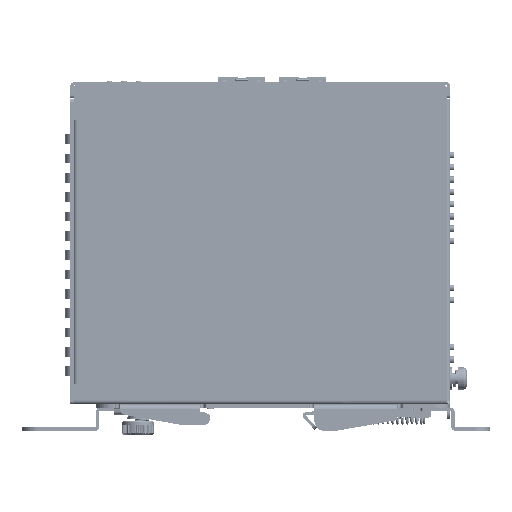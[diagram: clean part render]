
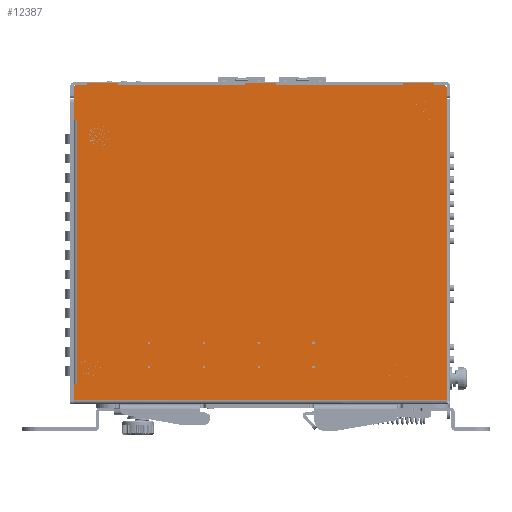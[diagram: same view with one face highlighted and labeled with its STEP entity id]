
A CAD part, left-side view. The second image highlights one B-rep face of the part: STEP entity #12387.
In plain terms, the highlighted planar face has unit normal (-1, 0, 0).
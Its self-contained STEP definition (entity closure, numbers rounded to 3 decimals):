
#88=DIRECTION('',(0.,-1.,0.));
#89=VECTOR('',#88,39.4);
#90=CARTESIAN_POINT('',(-1.,44.2,0.));
#91=LINE('',#90,#89);
#92=DIRECTION('',(0.,0.,-1.));
#93=VECTOR('',#92,0.8);
#94=CARTESIAN_POINT('',(-1.,4.8,0.8));
#95=LINE('',#94,#93);
#96=DIRECTION('',(0.,1.,0.));
#97=VECTOR('',#96,9.6);
#98=CARTESIAN_POINT('',(-1.,-4.8,0.8));
#99=LINE('',#98,#97);
#100=DIRECTION('',(0.,0.,1.));
#101=VECTOR('',#100,0.8);
#102=CARTESIAN_POINT('',(-1.,-4.8,0.));
#103=LINE('',#102,#101);
#104=DIRECTION('',(0.,-1.,0.));
#105=VECTOR('',#104,39.4);
#106=CARTESIAN_POINT('',(-1.,-4.8,0.));
#107=LINE('',#106,#105);
#108=DIRECTION('',(0.,0.,-1.));
#109=VECTOR('',#108,0.8);
#110=CARTESIAN_POINT('',(-1.,-44.2,0.8));
#111=LINE('',#110,#109);
#112=DIRECTION('',(0.,1.,0.));
#113=VECTOR('',#112,9.6);
#114=CARTESIAN_POINT('',(-1.,-53.8,0.8));
#115=LINE('',#114,#113);
#116=DIRECTION('',(0.,0.,1.));
#117=VECTOR('',#116,0.8);
#118=CARTESIAN_POINT('',(-1.,-53.8,0.));
#119=LINE('',#118,#117);
#120=DIRECTION('',(0.,-1.,0.));
#121=VECTOR('',#120,3.5);
#122=CARTESIAN_POINT('',(-1.,-53.8,0.));
#123=LINE('',#122,#121);
#124=CARTESIAN_POINT('',(-1.,-57.3,-0.5));
#125=DIRECTION('',(-1.,0.,0.));
#126=DIRECTION('',(0.,-1.,0.));
#127=AXIS2_PLACEMENT_3D('',#124,#125,#126);
#129=DIRECTION('',(0.,0.,-1.));
#130=VECTOR('',#129,3.7);
#131=CARTESIAN_POINT('',(-1.,-57.8,-0.5));
#132=LINE('',#131,#130);
#133=DIRECTION('',(0.,1.,0.));
#134=VECTOR('',#133,1.2);
#135=CARTESIAN_POINT('',(-1.,56.8,-92.8));
#136=LINE('',#135,#134);
#137=DIRECTION('',(0.,1.,0.));
#138=VECTOR('',#137,1.);
#139=CARTESIAN_POINT('',(-1.,56.8,-10.7));
#140=LINE('',#139,#138);
#141=DIRECTION('',(0.,0.,1.));
#142=VECTOR('',#141,6.5);
#143=CARTESIAN_POINT('',(-1.,57.8,-10.7));
#144=LINE('',#143,#142);
#145=DIRECTION('',(0.,0.,-1.));
#146=VECTOR('',#145,3.7);
#147=CARTESIAN_POINT('',(-1.,57.8,-0.5));
#148=LINE('',#147,#146);
#149=CARTESIAN_POINT('',(-1.,57.3,-0.5));
#150=DIRECTION('',(-1.,0.,0.));
#151=DIRECTION('',(0.,0.,1.));
#152=AXIS2_PLACEMENT_3D('',#149,#150,#151);
#154=DIRECTION('',(0.,-1.,0.));
#155=VECTOR('',#154,3.5);
#156=CARTESIAN_POINT('',(-1.,57.3,0.));
#157=LINE('',#156,#155);
#158=DIRECTION('',(0.,0.,-1.));
#159=VECTOR('',#158,0.8);
#160=CARTESIAN_POINT('',(-1.,53.8,0.8));
#161=LINE('',#160,#159);
#162=DIRECTION('',(0.,1.,0.));
#163=VECTOR('',#162,9.6);
#164=CARTESIAN_POINT('',(-1.,44.2,0.8));
#165=LINE('',#164,#163);
#166=DIRECTION('',(0.,0.,1.));
#167=VECTOR('',#166,0.8);
#168=CARTESIAN_POINT('',(-1.,44.2,0.));
#169=LINE('',#168,#167);
#219=DIRECTION('',(0.,0.,1.));
#220=VECTOR('',#219,82.1);
#221=CARTESIAN_POINT('',(-1.,56.8,-92.8));
#222=LINE('',#221,#220);
#464=DIRECTION('',(0.,0.,-1.));
#465=VECTOR('',#464,5.);
#466=CARTESIAN_POINT('',(-1.,58.,-92.8));
#467=LINE('',#466,#465);
#502=DIRECTION('',(0.,1.,0.));
#503=VECTOR('',#502,115.8);
#504=CARTESIAN_POINT('',(-1.,-57.8,-97.8));
#505=LINE('',#504,#503);
#6283=DIRECTION('',(0.,0.,-1.));
#6284=VECTOR('',#6283,93.6);
#6285=CARTESIAN_POINT('',(-1.,-57.8,-4.2));
#6286=LINE('',#6285,#6284);
#9322=CARTESIAN_POINT('',(-1.,58.,-97.8));
#9324=VERTEX_POINT('',#9322);
#9325=CARTESIAN_POINT('',(-1.,-57.8,-97.8));
#9326=VERTEX_POINT('',#9325);
#9339=CARTESIAN_POINT('',(-1.,-57.8,-4.2));
#9340=VERTEX_POINT('',#9339);
#9361=CARTESIAN_POINT('',(-1.,56.8,-92.8));
#9362=CARTESIAN_POINT('',(-1.,58.,-92.8));
#9363=VERTEX_POINT('',#9361);
#9364=VERTEX_POINT('',#9362);
#9369=CARTESIAN_POINT('',(-1.,56.8,-10.7));
#9370=VERTEX_POINT('',#9369);
#9381=CARTESIAN_POINT('',(-1.,57.3,0.));
#9382=VERTEX_POINT('',#9381);
#9383=CARTESIAN_POINT('',(-1.,57.8,-0.5));
#9384=VERTEX_POINT('',#9383);
#9389=CARTESIAN_POINT('',(-1.,-57.8,-0.5));
#9390=VERTEX_POINT('',#9389);
#9391=CARTESIAN_POINT('',(-1.,-57.3,0.));
#9392=VERTEX_POINT('',#9391);
#9717=CARTESIAN_POINT('',(-1.,57.8,-10.7));
#9718=CARTESIAN_POINT('',(-1.,57.8,-4.2));
#9719=VERTEX_POINT('',#9717);
#9720=VERTEX_POINT('',#9718);
#12086=CARTESIAN_POINT('',(-1.,44.2,0.));
#12087=CARTESIAN_POINT('',(-1.,44.2,0.8));
#12088=VERTEX_POINT('',#12086);
#12089=VERTEX_POINT('',#12087);
#12090=CARTESIAN_POINT('',(-1.,53.8,0.8));
#12091=VERTEX_POINT('',#12090);
#12092=CARTESIAN_POINT('',(-1.,53.8,0.));
#12093=VERTEX_POINT('',#12092);
#12102=CARTESIAN_POINT('',(-1.,-53.8,0.));
#12103=CARTESIAN_POINT('',(-1.,-53.8,0.8));
#12104=VERTEX_POINT('',#12102);
#12105=VERTEX_POINT('',#12103);
#12106=CARTESIAN_POINT('',(-1.,-44.2,0.8));
#12107=VERTEX_POINT('',#12106);
#12108=CARTESIAN_POINT('',(-1.,-44.2,0.));
#12109=VERTEX_POINT('',#12108);
#12118=CARTESIAN_POINT('',(-1.,-4.8,0.));
#12119=CARTESIAN_POINT('',(-1.,-4.8,0.8));
#12120=VERTEX_POINT('',#12118);
#12121=VERTEX_POINT('',#12119);
#12122=CARTESIAN_POINT('',(-1.,4.8,0.8));
#12123=VERTEX_POINT('',#12122);
#12124=CARTESIAN_POINT('',(-1.,4.8,0.));
#12125=VERTEX_POINT('',#12124);
#12333=CARTESIAN_POINT('',(-1.,0.,0.));
#12334=DIRECTION('',(1.,0.,0.));
#12335=DIRECTION('',(0.,-1.,0.));
#12336=AXIS2_PLACEMENT_3D('',#12333,#12334,#12335);
#12337=PLANE('',#12336);
#12339=ORIENTED_EDGE('',*,*,#12338,.T.);
#12341=ORIENTED_EDGE('',*,*,#12340,.F.);
#12343=ORIENTED_EDGE('',*,*,#12342,.F.);
#12345=ORIENTED_EDGE('',*,*,#12344,.F.);
#12346=ORIENTED_EDGE('',*,*,#12323,.T.);
#12348=ORIENTED_EDGE('',*,*,#12347,.F.);
#12350=ORIENTED_EDGE('',*,*,#12349,.F.);
#12352=ORIENTED_EDGE('',*,*,#12351,.F.);
#12354=ORIENTED_EDGE('',*,*,#12353,.T.);
#12356=ORIENTED_EDGE('',*,*,#12355,.F.);
#12358=ORIENTED_EDGE('',*,*,#12357,.T.);
#12360=ORIENTED_EDGE('',*,*,#12359,.T.);
#12362=ORIENTED_EDGE('',*,*,#12361,.T.);
#12364=ORIENTED_EDGE('',*,*,#12363,.F.);
#12366=ORIENTED_EDGE('',*,*,#12365,.F.);
#12368=ORIENTED_EDGE('',*,*,#12367,.T.);
#12370=ORIENTED_EDGE('',*,*,#12369,.T.);
#12372=ORIENTED_EDGE('',*,*,#12371,.T.);
#12374=ORIENTED_EDGE('',*,*,#12373,.F.);
#12376=ORIENTED_EDGE('',*,*,#12375,.F.);
#12378=ORIENTED_EDGE('',*,*,#12377,.T.);
#12380=ORIENTED_EDGE('',*,*,#12379,.F.);
#12382=ORIENTED_EDGE('',*,*,#12381,.F.);
#12384=ORIENTED_EDGE('',*,*,#12383,.F.);
#12385=EDGE_LOOP('',(#12339,#12341,#12343,#12345,#12346,#12348,#12350,#12352,
#12354,#12356,#12358,#12360,#12362,#12364,#12366,#12368,#12370,#12372,#12374,
#12376,#12378,#12380,#12382,#12384));
#12386=FACE_OUTER_BOUND('',#12385,.F.);
#128=CIRCLE('',#127,0.5);
#153=CIRCLE('',#152,0.5);
#12323=EDGE_CURVE('',#12120,#12109,#107,.T.);
#12338=EDGE_CURVE('',#12088,#12125,#91,.T.);
#12340=EDGE_CURVE('',#12123,#12125,#95,.T.);
#12342=EDGE_CURVE('',#12121,#12123,#99,.T.);
#12344=EDGE_CURVE('',#12120,#12121,#103,.T.);
#12347=EDGE_CURVE('',#12107,#12109,#111,.T.);
#12349=EDGE_CURVE('',#12105,#12107,#115,.T.);
#12351=EDGE_CURVE('',#12104,#12105,#119,.T.);
#12353=EDGE_CURVE('',#12104,#9392,#123,.T.);
#12355=EDGE_CURVE('',#9390,#9392,#128,.T.);
#12357=EDGE_CURVE('',#9390,#9340,#132,.T.);
#12359=EDGE_CURVE('',#9340,#9326,#6286,.T.);
#12361=EDGE_CURVE('',#9326,#9324,#505,.T.);
#12363=EDGE_CURVE('',#9364,#9324,#467,.T.);
#12365=EDGE_CURVE('',#9363,#9364,#136,.T.);
#12367=EDGE_CURVE('',#9363,#9370,#222,.T.);
#12369=EDGE_CURVE('',#9370,#9719,#140,.T.);
#12371=EDGE_CURVE('',#9719,#9720,#144,.T.);
#12373=EDGE_CURVE('',#9384,#9720,#148,.T.);
#12375=EDGE_CURVE('',#9382,#9384,#153,.T.);
#12377=EDGE_CURVE('',#9382,#12093,#157,.T.);
#12379=EDGE_CURVE('',#12091,#12093,#161,.T.);
#12381=EDGE_CURVE('',#12089,#12091,#165,.T.);
#12383=EDGE_CURVE('',#12088,#12089,#169,.T.);
#12387=ADVANCED_FACE('',(#12386),#12337,.F.);
